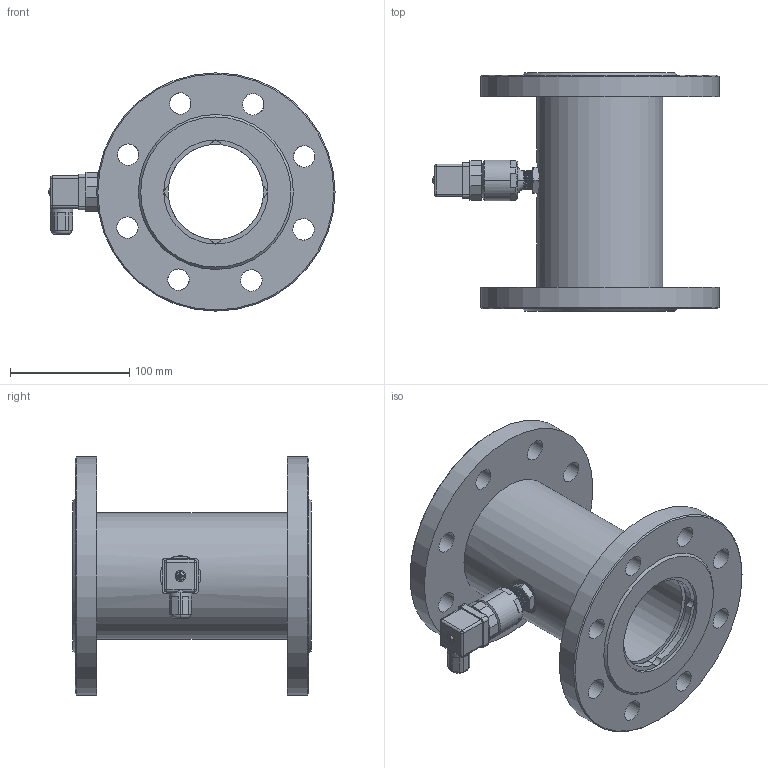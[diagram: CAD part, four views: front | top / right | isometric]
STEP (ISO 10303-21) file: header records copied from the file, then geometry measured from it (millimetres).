
FILE_DESCRIPTION( (''), '2;1');
FILE_NAME( 'QTKB_DN80_flange.step', '2023-11-04T15:45:29+08:00', (''), (''), '', '', '');
FILE_SCHEMA (('AUTOMOTIVE_DESIGN { 1 0 10303 214 3 1 1 1 }'));
Length unit declared in the file: millimetre
Products named in the file (1): QTKB DN80_flange
Bounding box: 240 x 200 x 200 mm (x, y, z)
Volume: 1566371.6 mm3; surface area: 255979.6 mm2
Topology: 5 solids, 6 shells, 414 faces, 1126 edges, 747 vertices
Faces by surface type: plane 262, cylinder 94, cone 30, bspline 20, torus 4, sphere 4
Full cylindrical faces by diameter (mm): 16.5 x1, 18 x16, 80 x1, 86 x2, 87.347 x2, 106 x1, 200 x2
Entity records: 17510 total; most frequent: CARTESIAN_POINT 7257, ORIENTED_EDGE 2142, DIRECTION 1992, EDGE_CURVE 1071, VERTEX_POINT 725, AXIS2_PLACEMENT_3D 668, LINE 656, VECTOR 656
